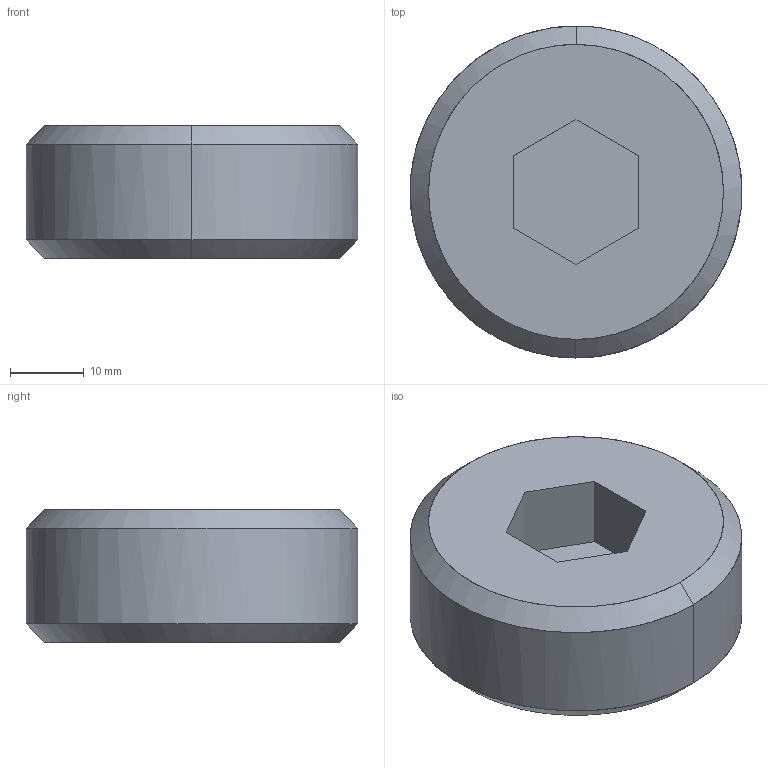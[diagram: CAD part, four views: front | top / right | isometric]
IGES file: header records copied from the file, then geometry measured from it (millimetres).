
Global section: file name: E:\UnigraphicsGraphicData\MISUMI_PRESS-PARTS\IGES\3d_msw45_00518_r00.igs; native system: NX V5.0; preprocessor: UGS NX IGES V5.0; author: MISUMI; date: 20110105.161523; units: millimetre
Bounding box: 44.96 x 45 x 18 mm (x, y, z)
Surface area: 5884.6 mm2 (no closed solid volume)
Topology: 0 solids, 0 shells, 15 faces, 92 edges, 92 vertices
Faces by surface type: bspline 15
